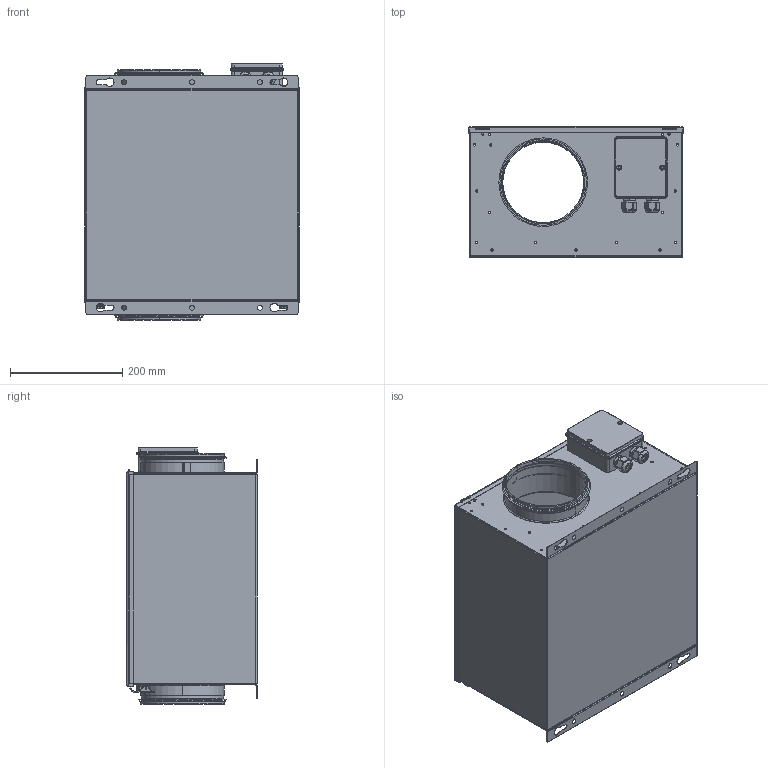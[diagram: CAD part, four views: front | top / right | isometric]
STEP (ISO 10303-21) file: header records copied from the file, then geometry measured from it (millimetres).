
FILE_DESCRIPTION (( 'STEP AP203' ), '1' );
FILE_NAME ('165183_00_ISOR150ECK01_step.step', '2022-10-17T08:20:58', ( '' ), ( '' ), 'SwSTEP 2.0', 'SolidWorks 2021', '' );
FILE_SCHEMA (( 'CONFIG_CONTROL_DESIGN' ));
Length unit declared in the file: millimetre
Products named in the file (1): 165183_00_ISOR150ECK01_step
Bounding box: 382.6 x 231.8 x 457.5 mm (x, y, z)
Surface area: 1560408.9 mm2 (no closed solid volume)
Topology: 0 solids, 65 shells, 751 faces, 2292 edges, 1535 vertices
Faces by surface type: cylinder 369, plane 232, bspline 60, torus 52, cone 38
Entity records: 28792 total; most frequent: CARTESIAN_POINT 7886, DIRECTION 4629, ORIENTED_EDGE 3812, EDGE_CURVE 2292, AXIS2_PLACEMENT_3D 1779, VERTEX_POINT 1535, CIRCLE 1087, VECTOR 1071
